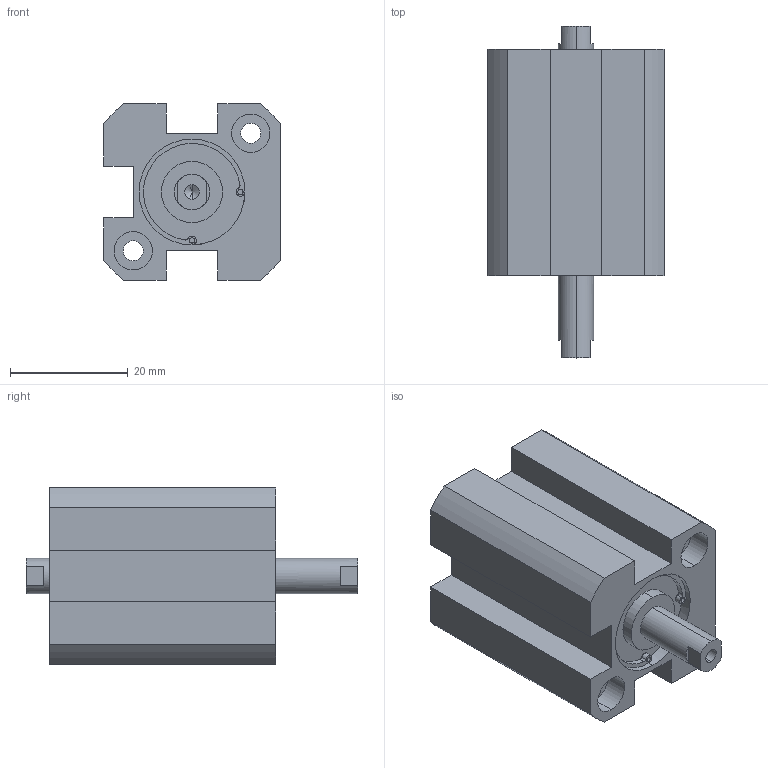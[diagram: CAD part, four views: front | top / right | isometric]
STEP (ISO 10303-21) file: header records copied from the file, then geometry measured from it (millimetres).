
FILE_DESCRIPTION (( 'STEP AP203' ), '1' );
FILE_NAME ('XC#7-16D-10.STEP', '2016-05-23T08:21:43', ( '' ), ( '' ), 'SwSTEP 2.0', 'SolidWorks 2014', '' );
FILE_SCHEMA (( 'CONFIG_CONTROL_DESIGN' ));
Length unit declared in the file: millimetre
Products named in the file (1): XC#7-16D-10
Bounding box: 30 x 56.5 x 30 mm (x, y, z)
Volume: 27156.3 mm3; surface area: 9056.9 mm2
Topology: 1 solids, 1 shells, 108 faces, 266 edges, 170 vertices
Faces by surface type: cylinder 58, plane 42, cone 8
Entity records: 3265 total; most frequent: DIRECTION 602, CARTESIAN_POINT 537, ORIENTED_EDGE 516, EDGE_CURVE 258, AXIS2_PLACEMENT_3D 235, VERTEX_POINT 170, LINE 132, VECTOR 132
